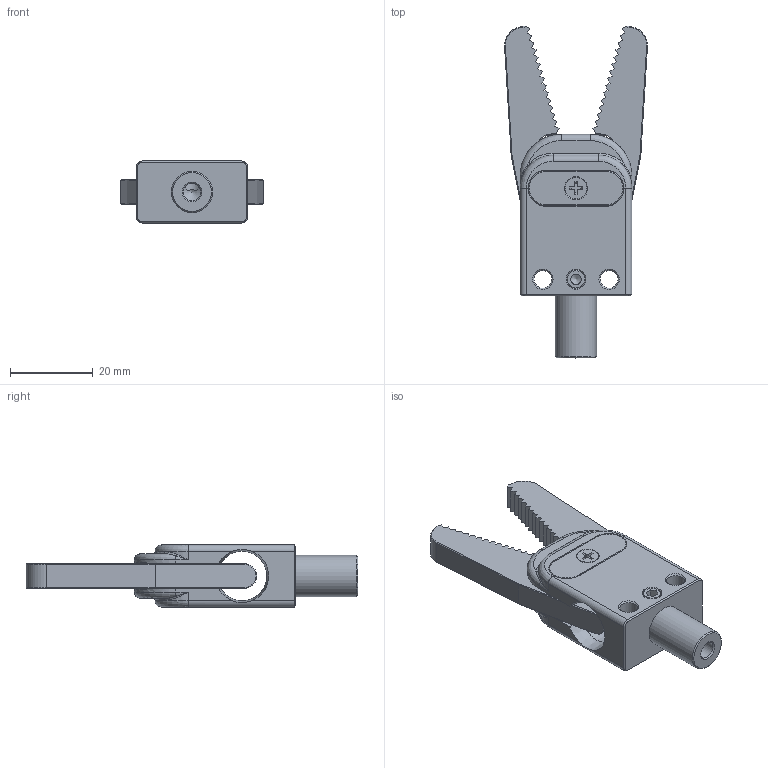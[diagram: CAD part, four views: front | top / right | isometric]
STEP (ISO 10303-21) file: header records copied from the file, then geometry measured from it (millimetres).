
FILE_DESCRIPTION(/* description */ (''),/* implementation_level */ '2;1');
FILE_NAME(/* name */ '_model1.stp',/* time_stamp */ '2023-03-08T11:26:35+08:00',/* author */ (''),/* organization */ (''),/* preprocessor_version */ 'ST-DEVELOPER v16',/* originating_system */ 'SIEMENS PLM Software NX 10.0',/* authorisation */ '');
FILE_SCHEMA (('AUTOMOTIVE_DESIGN { 1 0 10303 214 3 1 1 1 }'));
Length unit declared in the file: millimetre
Products named in the file (1): Admi115498B06io2
Bounding box: 34.53 x 80.2 x 15 mm (x, y, z)
Volume: 14639.3 mm3; surface area: 8454.5 mm2
Topology: 1 solids, 6 shells, 364 faces, 924 edges, 571 vertices
Faces by surface type: plane 218, cylinder 64, cone 58, bspline 12, revolution 12
Full cylindrical faces by diameter (mm): 2.2 x2, 2.5 x1, 3 x7, 3.5 x1, 4.2 x2, 4.3 x2, 5.2 x1, 10 x1, 12 x1
Entity records: 17820 total; most frequent: CARTESIAN_POINT 6852, DIRECTION 1712, ORIENTED_EDGE 1698, EDGE_CURVE 849, AXIS2_PLACEMENT_3D 567, LINE 566, VECTOR 566, VERTEX_POINT 544
